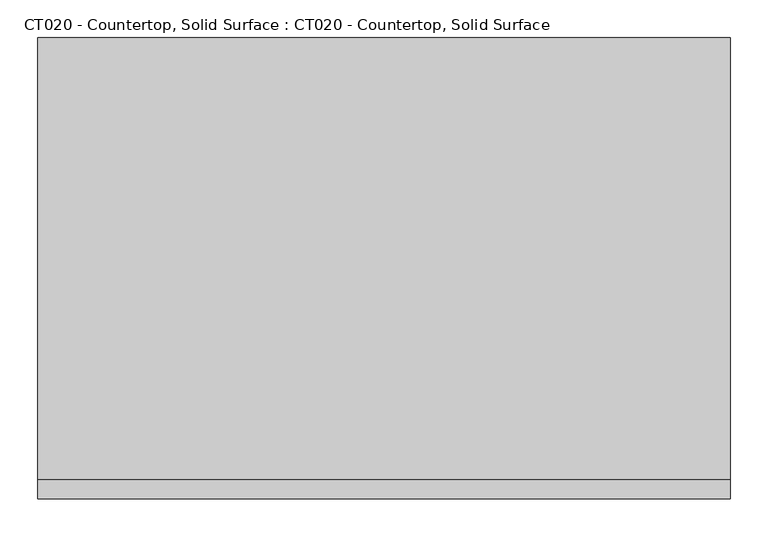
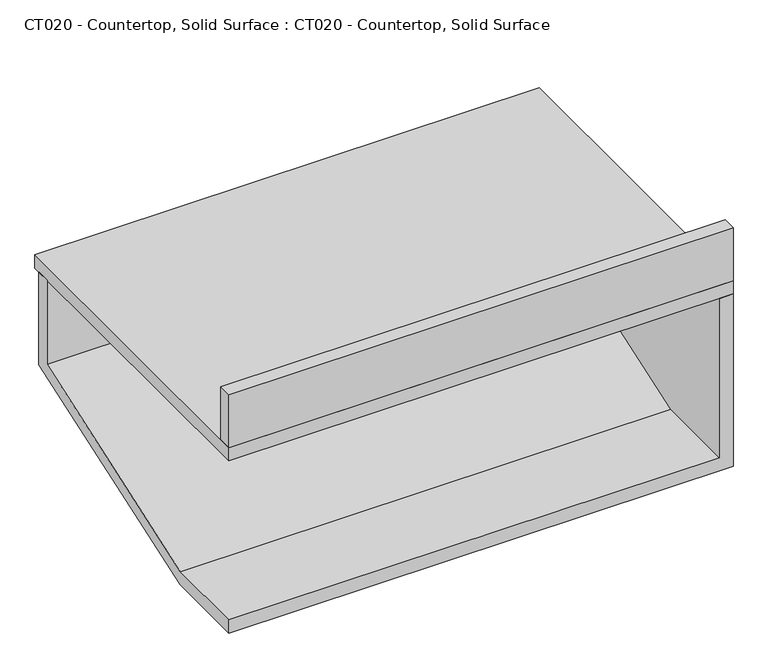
"""IFC4 building model written with IfcOpenShell, lengths in millimetres: proxy geometry, CT020 - Countertop, Solid Surface : CT020 - Countertop, Solid Surface."""

from ifc_helpers import new_model, si_unit, frame, origin, origin_with_axes, place, context, project, spatial, polyline, outline, extrude, faceted_brep, source, transform, mapped, element, save


def ct020_countertop_solid_surface_ct020_countertop_solid_22332cec(model_context):
    return source(origin(), model_context, "Body", "SolidModel", [
        faceted_brep([(-457.2, 266.7, 0.0), (-457.2, 292.1, 0.0), (-457.2, 292.1, -177.8), (-457.2, -152.4, -330.2), (-457.2, -304.8, -330.2), (-457.2, -304.8, -304.8), (-457.2, -152.4, -304.8), (-457.2, 266.7, -161.1085714), (431.8, 266.7, -161.1085714), (431.8, 266.7, 0.0), (457.2, 292.1, 0.0), (457.2, 292.1, -177.8), (431.8, -304.8, 0.0), (457.2, -304.8, 0.0), (431.8, -152.4, -304.8), (431.8, -304.8, -304.8), (457.2, -304.8, -330.2), (457.2, -152.4, -330.2)], [[[0, 1, 2, 3, 4, 5, 6, 7]], [[7, 8, 9, 0]], [[10, 11, 2, 1]], [[0, 9, 12, 13, 10, 1]], [[12, 9, 8, 14, 15]], [[13, 16, 17, 11, 10]], [[15, 5, 4, 16, 13, 12]], [[6, 14, 8, 7]], [[2, 11, 17, 3]], [[16, 4, 3, 17]], [[5, 15, 14, 6]]]),
        extrude(outline(polyline([(-457.2, -279.4), (457.2, -279.4), (457.2, -304.8), (-457.2, -304.8), (-457.2, -279.4)])), frame((0.0, 0.0, 25.4), z_axis=(0.0, 0.0, 1.0), x_axis=(1.0, 0.0, 0.0)), (0.0, 0.0, 1.0), 101.6),
        extrude(outline(polyline([(457.2, -304.8), (-457.2, -304.8), (-457.2, 304.8), (457.2, 304.8), (457.2, -304.8)])), origin_with_axes(), (0.0, 0.0, 1.0), 25.4),
        extrude(outline(polyline([(-457.2, -304.8), (-457.2, 0.0), (-457.2, 304.8), (457.2, 304.8), (457.2, -304.8), (-457.2, -304.8)])), origin_with_axes(), (0.0, 0.0, 1.0), 25.4),
    ])


if __name__ == "__main__":
    model = new_model("IFC4")
    model_context = context("Model", 3, world=origin())
    ifc_project = project(units=[si_unit("LENGTHUNIT", "METRE", prefix="MILLI")], contexts=[model_context])
    site = spatial("IfcSite", under=ifc_project)
    building = spatial("IfcBuilding", under=site)
    placement = place(None, origin())
    ct020_countertop_solid_surface_ct020_countertop_solid_shape = ct020_countertop_solid_surface_ct020_countertop_solid_22332cec(model_context)
    element("IfcBuildingElementProxy", 1, Name="CT020 - Countertop, Solid Surface : CT020 - Countertop, Solid Surface", ObjectType="CT020 - Countertop, Solid Surface : CT020 - Countertop, Solid Surface", at=placement, inside=building, context=model_context, shape_type="MappedRepresentation", body=[
        mapped(ct020_countertop_solid_surface_ct020_countertop_solid_shape, transform((0.0, 0.0, 0.0), x_axis=(1.0, 0.0, 0.0), y_axis=(0.0, 1.0, 0.0), z_axis=(0.0, 0.0, 1.0))),
    ])
    save(model, "model.ifc")
